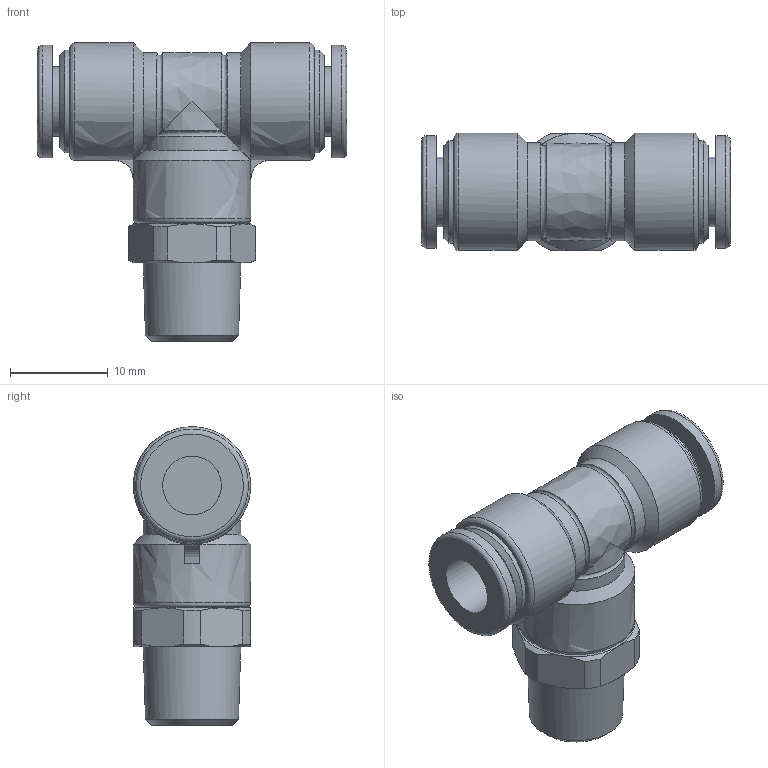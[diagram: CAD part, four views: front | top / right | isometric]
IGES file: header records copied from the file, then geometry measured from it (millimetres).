
Global section: file name: [05] FS6-01MT FS6-01MTW; native system: Autodesk Inventor 2014; preprocessor: unknown; author: kazuhiro.t; date: 20130806.165346; units: millimetre
Bounding box: 31.6 x 12 x 30.5 mm (x, y, z)
Volume: 4236.1 mm3; surface area: 2818.2 mm2
Topology: 1 solids, 1 shells, 86 faces, 202 edges, 128 vertices
Faces by surface type: bspline 86
